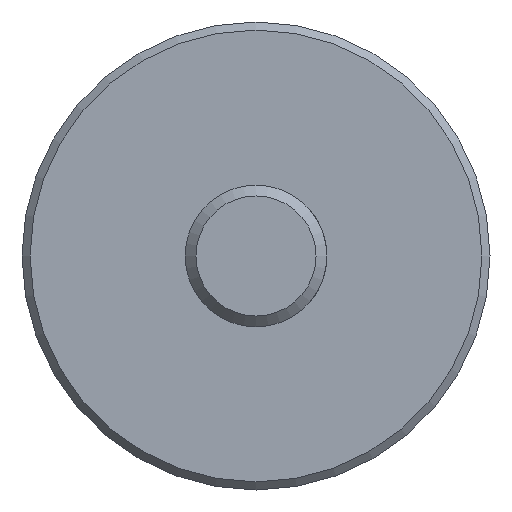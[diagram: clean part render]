
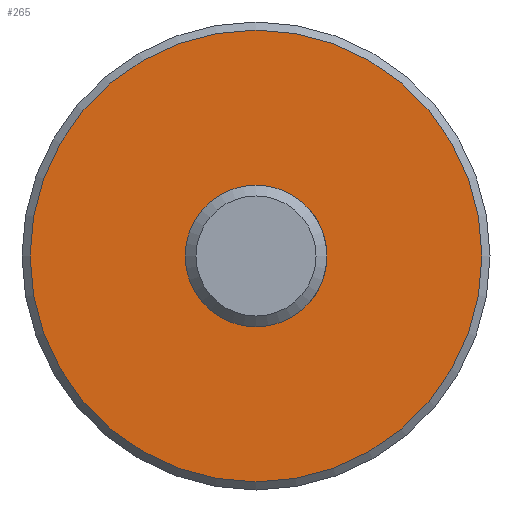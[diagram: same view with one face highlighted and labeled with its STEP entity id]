
A CAD part, front view. The second image highlights one B-rep face of the part: STEP entity #265.
In plain terms, the highlighted planar face has unit normal (0, -1, 0).
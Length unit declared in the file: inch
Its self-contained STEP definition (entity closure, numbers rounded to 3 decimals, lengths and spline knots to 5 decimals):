
#12 = AXIS2_PLACEMENT_3D ( 'NONE', #482, #171, #259 ) ;
#26 = ORIENTED_EDGE ( 'NONE', *, *, #208, .F. ) ;
#98 = CARTESIAN_POINT ( 'NONE',  ( 0., 3.33, 0. ) ) ;
#115 = CARTESIAN_POINT ( 'NONE',  ( 0., 3.33, 1.255 ) ) ;
#122 = FACE_BOUND ( 'NONE', #155, .T. ) ;
#155 = EDGE_LOOP ( 'NONE', ( #250 ) ) ;
#164 = FACE_OUTER_BOUND ( 'NONE', #498, .T. ) ;
#169 = CARTESIAN_POINT ( 'NONE',  ( 0., 3.33, 0.3937 ) ) ;
#171 = DIRECTION ( 'NONE',  ( 0., 1., 0. ) ) ;
#208 = EDGE_CURVE ( 'NONE', #503, #503, #546, .T. ) ;
#227 = DIRECTION ( 'NONE',  ( 0., 1., 0. ) ) ;
#241 = AXIS2_PLACEMENT_3D ( 'NONE', #339, #260, #524 ) ;
#250 = ORIENTED_EDGE ( 'NONE', *, *, #408, .T. ) ;
#252 = VERTEX_POINT ( 'NONE', #169 ) ;
#259 = DIRECTION ( 'NONE',  ( 0., 0., 1. ) ) ;
#260 = DIRECTION ( 'NONE',  ( 0., 1., 0. ) ) ;
#265 = ADVANCED_FACE ( 'NONE', ( #164, #122 ), #303, .F. ) ;
#268 = AXIS2_PLACEMENT_3D ( 'NONE', #98, #227, #508 ) ;
#303 = PLANE ( 'NONE',  #12 ) ;
#339 = CARTESIAN_POINT ( 'NONE',  ( 0., 3.33, 0. ) ) ;
#401 = CIRCLE ( 'NONE', #268, 0.3937 ) ;
#408 = EDGE_CURVE ( 'NONE', #252, #252, #401, .T. ) ;
#482 = CARTESIAN_POINT ( 'NONE',  ( 0.3937, 3.33, 0. ) ) ;
#498 = EDGE_LOOP ( 'NONE', ( #26 ) ) ;
#503 = VERTEX_POINT ( 'NONE', #115 ) ;
#508 = DIRECTION ( 'NONE',  ( 0., 0., 1. ) ) ;
#524 = DIRECTION ( 'NONE',  ( 0., 0., 1. ) ) ;
#546 = CIRCLE ( 'NONE', #241, 1.255 ) ;
